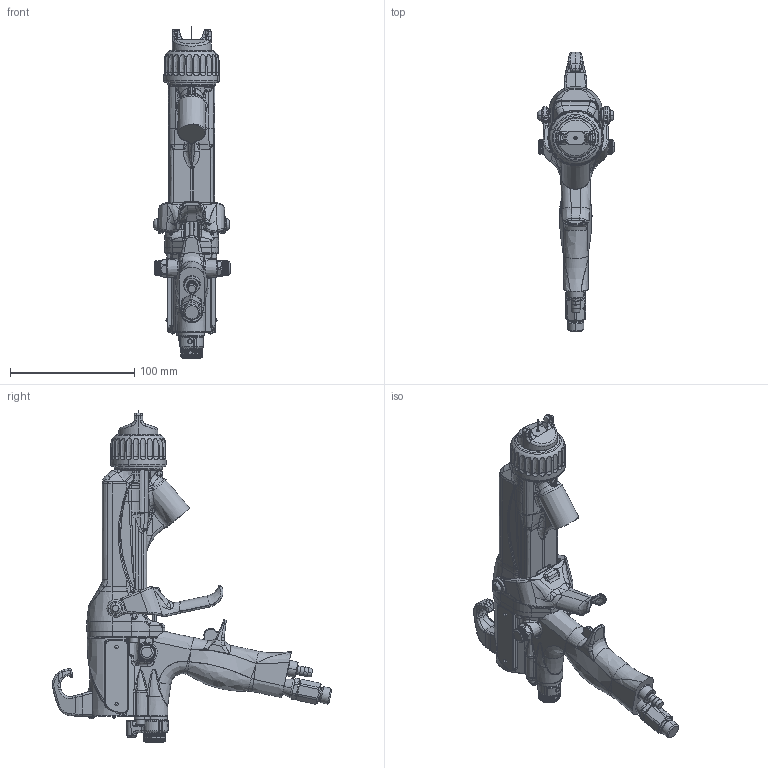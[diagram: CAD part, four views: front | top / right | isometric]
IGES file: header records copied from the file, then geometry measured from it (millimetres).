
Start section:  PTC IGES file: l60t17-en-p.igs
Global section: file name: l60t17-en-p.igs; native system: Creo Parametric by PTC Inc.; preprocessor: 2019030; author: qusrh3; organization: Unknown; date: 20200305.090557; units: inch
Bounding box: 61.3 x 224.84 x 267.23 mm (x, y, z)
Surface area: 81690.8 mm2 (no closed solid volume)
Topology: 0 solids, 0 shells, 2491 faces, 12597 edges, 12588 vertices
Faces by surface type: bspline 1320, revolution 1163, extrusion 8
